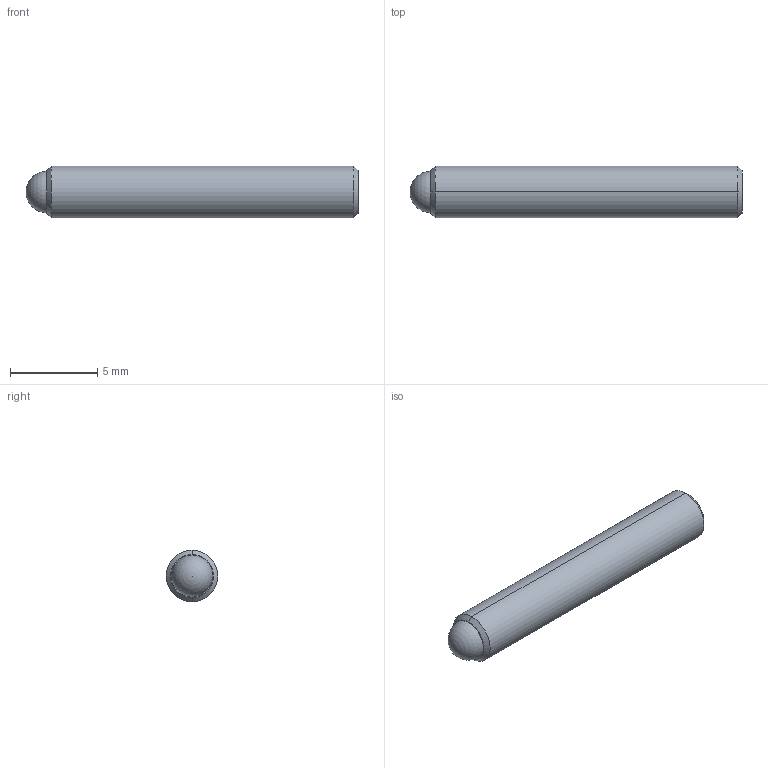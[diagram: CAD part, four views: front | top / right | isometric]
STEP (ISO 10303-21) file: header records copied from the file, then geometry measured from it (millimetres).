
FILE_DESCRIPTION (( 'STEP AP214' ), '1' );
FILE_NAME ('TS6-80-750.STEP', '2014-07-28T19:31:37', ( 'workpc' ), ( 'Microsoft' ), 'SwSTEP 2.0', 'SolidWorks 2013', '' );
FILE_SCHEMA (( 'AUTOMOTIVE_DESIGN' ));
Length unit declared in the file: inch
Products named in the file (1): TS6-80-750
Bounding box: 19.05 x 2.97 x 2.97 mm (x, y, z)
Volume: 117.3 mm3; surface area: 220.1 mm2
Topology: 2 solids, 2 shells, 20 faces, 45 edges, 29 vertices
Faces by surface type: plane 10, cylinder 4, cone 4, sphere 2
Entity records: 573 total; most frequent: DIRECTION 96, CARTESIAN_POINT 87, ORIENTED_EDGE 80, EDGE_CURVE 40, AXIS2_PLACEMENT_3D 35, VECTOR 26, VERTEX_POINT 26, LINE 26
